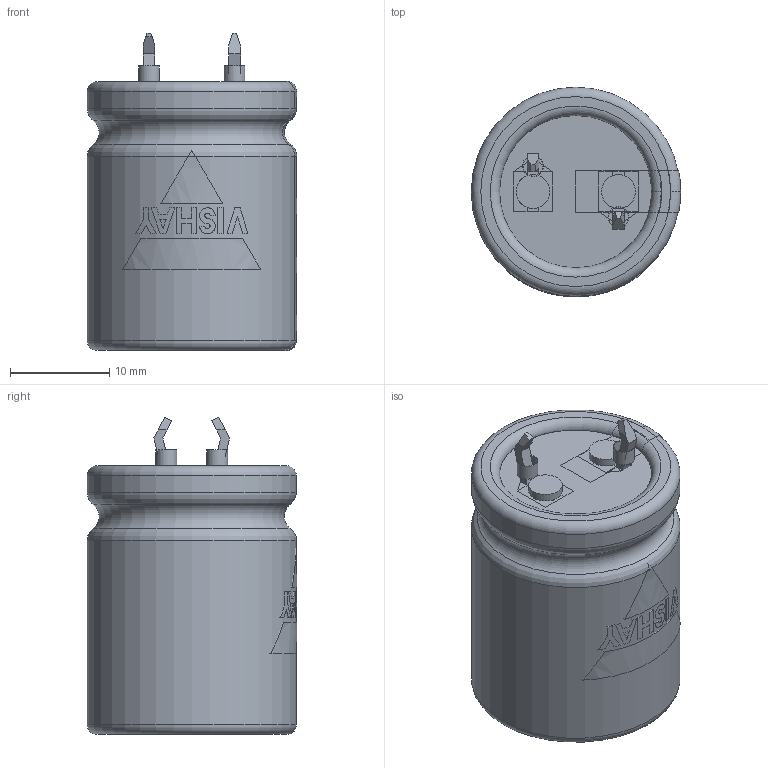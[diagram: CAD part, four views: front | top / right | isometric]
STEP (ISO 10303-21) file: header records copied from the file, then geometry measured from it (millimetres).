
FILE_DESCRIPTION(('FreeCAD Model'),'2;1');
FILE_NAME('C:/Users/Gebruiker/Documents/FreeCAD/STEP files/SnapIn_20x25_2pin_4.0.step','2020-12-14T22:53:31',('Author'),(''), 'Open CASCADE STEP processor 6.8','FreeCAD','Unknown');
FILE_SCHEMA(('AUTOMOTIVE_DESIGN_CC2 { 1 2 10303 214 -1 1 5 4 }'));
Length unit declared in the file: millimetre
Products named in the file (9): ASSEMBLY; TerminalMin; PCBHoles; TerminalPlus; Disc; BottomInsulation; Can3D; InkMinusBar; InkLogo
Assembly tree (8 placements, depth 2):
  ASSEMBLY
    TerminalMin
    PCBHoles
    TerminalPlus
    Disc
    BottomInsulation
    Can3D
    InkMinusBar
    InkLogo
Bounding box: 21.05 x 21.05 x 31.95 mm (x, y, z)
Volume: 10518.9 mm3; surface area: 6083 mm2
Topology: 16 solids, 16 shells, 194 faces, 476 edges, 312 vertices
Faces by surface type: plane 146, cylinder 29, torus 19
Full cylindrical faces by diameter (mm): 2 x2, 2.1 x2, 3.4 x2, 15.3 x1, 16.8 x2, 21 x2
Entity records: 20566 total; most frequent: CARTESIAN_POINT 9913, DIRECTION 1656, ORIENTED_EDGE 952, PCURVE 952, DEFINITIONAL_REPRESENTATION 952, LINE 917, VECTOR 917, EDGE_CURVE 476
